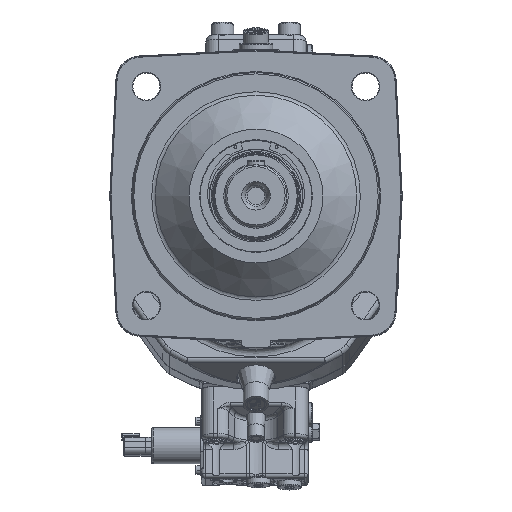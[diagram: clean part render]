
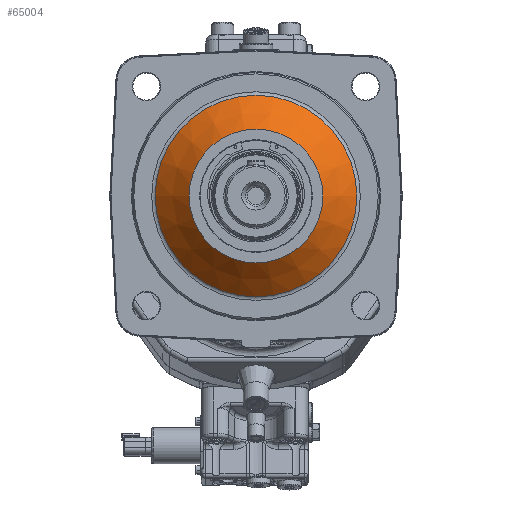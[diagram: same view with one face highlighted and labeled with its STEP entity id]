
A CAD part, top view. The second image highlights one B-rep face of the part: STEP entity #65004.
In plain terms, the highlighted conical face has half-angle 45 degrees and reference radius 93 mm.
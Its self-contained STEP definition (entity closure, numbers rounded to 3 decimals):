
#3613 = VERTEX_POINT ( 'NONE', #4898 ) ;
#4898 = CARTESIAN_POINT ( 'NONE',  ( -81.328, 0., 11.672 ) ) ;
#7756 = CARTESIAN_POINT ( 'NONE',  ( 0., 0., 11.672 ) ) ;
#8079 = ORIENTED_EDGE ( 'NONE', *, *, #25452, .T. ) ;
#9299 = DIRECTION ( 'NONE',  ( 0., 0., -1. ) ) ;
#9906 = AXIS2_PLACEMENT_3D ( 'NONE', #7756, #24895, #41587 ) ;
#24778 = DIRECTION ( 'NONE',  ( -1., 0., 0. ) ) ;
#24895 = DIRECTION ( 'NONE',  ( 0., 0., 1. ) ) ;
#25452 = EDGE_CURVE ( 'NONE', #3613, #3613, #45914, .T. ) ;
#25515 = EDGE_LOOP ( 'NONE', ( #44528 ) ) ;
#33937 = CIRCLE ( 'NONE', #61533, 54. ) ;
#37938 = EDGE_LOOP ( 'NONE', ( #8079 ) ) ;
#39460 = CONICAL_SURFACE ( 'NONE', #48253, 93., 0.785 ) ;
#41587 = DIRECTION ( 'NONE',  ( -1., 0., 0. ) ) ;
#44528 = ORIENTED_EDGE ( 'NONE', *, *, #60939, .T. ) ;
#44922 = FACE_OUTER_BOUND ( 'NONE', #37938, .T. ) ;
#45914 = CIRCLE ( 'NONE', #9906, 81.328 ) ;
#48253 = AXIS2_PLACEMENT_3D ( 'NONE', #58553, #59048, #24778 ) ;
#49214 = CARTESIAN_POINT ( 'NONE',  ( 0., 0., 39. ) ) ;
#54489 = CARTESIAN_POINT ( 'NONE',  ( 54., 0., 39. ) ) ;
#54772 = FACE_BOUND ( 'NONE', #25515, .T. ) ;
#55420 = DIRECTION ( 'NONE',  ( 1., 0., 0. ) ) ;
#58553 = CARTESIAN_POINT ( 'NONE',  ( 0., 0., 0. ) ) ;
#59048 = DIRECTION ( 'NONE',  ( 0., 0., -1. ) ) ;
#60939 = EDGE_CURVE ( 'NONE', #64678, #64678, #33937, .T. ) ;
#61533 = AXIS2_PLACEMENT_3D ( 'NONE', #49214, #9299, #55420 ) ;
#64678 = VERTEX_POINT ( 'NONE', #54489 ) ;
#65004 = ADVANCED_FACE ( 'NONE', ( #44922, #54772 ), #39460, .T. ) ;
